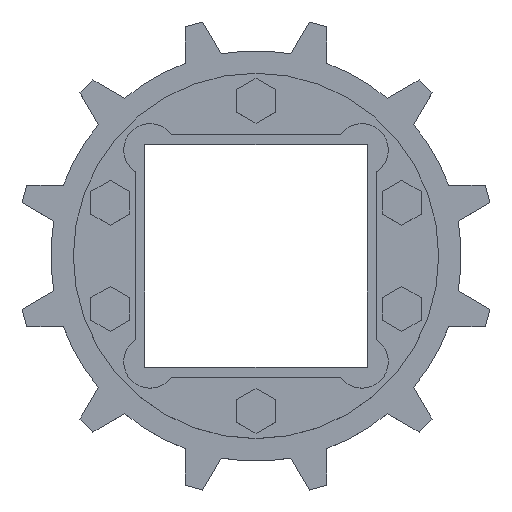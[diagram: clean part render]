
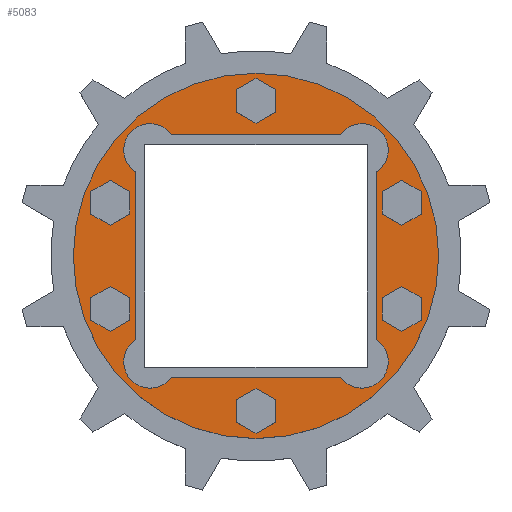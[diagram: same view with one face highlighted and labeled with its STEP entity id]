
A CAD part, top view. The second image highlights one B-rep face of the part: STEP entity #5083.
In plain terms, the highlighted planar face has unit normal (0, 0, 1) as drawn and (0, 1, 0) by its records, which use the part's own axes.
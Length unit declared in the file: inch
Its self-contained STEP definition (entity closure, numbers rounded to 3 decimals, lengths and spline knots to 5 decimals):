
#4576=CARTESIAN_POINT('',(0.,0.43,0.));
#4577=DIRECTION('',(0.,1.,0.));
#4578=DIRECTION('',(-1.,0.,0.));
#4579=AXIS2_PLACEMENT_3D('',#4576,#4577,#4578);
#4581=CARTESIAN_POINT('',(0.,0.43,0.));
#4582=DIRECTION('',(0.,-1.,0.));
#4583=DIRECTION('',(-1.,0.,0.));
#4584=AXIS2_PLACEMENT_3D('',#4581,#4582,#4583);
#4586=DIRECTION('',(0.,0.,-1.));
#4587=VECTOR('',#4586,1.89723);
#4588=CARTESIAN_POINT('',(-1.36,0.43,0.94862));
#4589=LINE('',#4588,#4587);
#4590=CARTESIAN_POINT('',(-1.189,0.43,1.189));
#4591=DIRECTION('',(0.,1.,0.));
#4592=DIRECTION('',(-0.58,0.,-0.815));
#4593=AXIS2_PLACEMENT_3D('',#4590,#4591,#4592);
#4595=DIRECTION('',(1.,0.,0.));
#4596=VECTOR('',#4595,1.88362);
#4597=CARTESIAN_POINT('',(-0.94181,0.43,1.35));
#4598=LINE('',#4597,#4596);
#4599=CARTESIAN_POINT('',(1.189,0.43,1.189));
#4600=DIRECTION('',(0.,1.,0.));
#4601=DIRECTION('',(-0.838,0.,0.546));
#4602=AXIS2_PLACEMENT_3D('',#4599,#4600,#4601);
#4604=DIRECTION('',(0.,0.,1.));
#4605=VECTOR('',#4604,1.89723);
#4606=CARTESIAN_POINT('',(1.36,0.43,-0.94862));
#4607=LINE('',#4606,#4605);
#4608=CARTESIAN_POINT('',(1.189,0.43,-1.189));
#4609=DIRECTION('',(0.,1.,0.));
#4610=DIRECTION('',(0.58,0.,0.815));
#4611=AXIS2_PLACEMENT_3D('',#4608,#4609,#4610);
#4613=DIRECTION('',(1.,0.,0.));
#4614=VECTOR('',#4613,1.88362);
#4615=CARTESIAN_POINT('',(-0.94181,0.43,-1.35));
#4616=LINE('',#4615,#4614);
#4617=CARTESIAN_POINT('',(-1.189,0.43,-1.189));
#4618=DIRECTION('',(0.,1.,0.));
#4619=DIRECTION('',(0.838,0.,-0.546));
#4620=AXIS2_PLACEMENT_3D('',#4617,#4618,#4619);
#4622=CARTESIAN_POINT('',(1.74,0.43,0.));
#4623=DIRECTION('',(0.,1.,0.));
#4624=DIRECTION('',(1.,0.,0.));
#4625=AXIS2_PLACEMENT_3D('',#4622,#4623,#4624);
#4627=CARTESIAN_POINT('',(1.74,0.43,0.));
#4628=DIRECTION('',(0.,1.,0.));
#4629=DIRECTION('',(-1.,0.,0.));
#4630=AXIS2_PLACEMENT_3D('',#4627,#4628,#4629);
#4632=CARTESIAN_POINT('',(-1.74,0.43,0.));
#4633=DIRECTION('',(0.,1.,0.));
#4634=DIRECTION('',(1.,0.,0.));
#4635=AXIS2_PLACEMENT_3D('',#4632,#4633,#4634);
#4637=CARTESIAN_POINT('',(-1.74,0.43,0.));
#4638=DIRECTION('',(0.,1.,0.));
#4639=DIRECTION('',(-1.,0.,0.));
#4640=AXIS2_PLACEMENT_3D('',#4637,#4638,#4639);
#4642=CARTESIAN_POINT('',(0.595,0.43,-1.635));
#4643=DIRECTION('',(0.,1.,0.));
#4644=DIRECTION('',(-1.,0.,0.));
#4645=AXIS2_PLACEMENT_3D('',#4642,#4643,#4644);
#4647=CARTESIAN_POINT('',(0.595,0.43,-1.635));
#4648=DIRECTION('',(0.,1.,0.));
#4649=DIRECTION('',(1.,0.,0.));
#4650=AXIS2_PLACEMENT_3D('',#4647,#4648,#4649);
#4652=CARTESIAN_POINT('',(-0.595,0.43,-1.635));
#4653=DIRECTION('',(0.,1.,0.));
#4654=DIRECTION('',(-1.,0.,0.));
#4655=AXIS2_PLACEMENT_3D('',#4652,#4653,#4654);
#4657=CARTESIAN_POINT('',(-0.595,0.43,-1.635));
#4658=DIRECTION('',(0.,1.,0.));
#4659=DIRECTION('',(1.,0.,0.));
#4660=AXIS2_PLACEMENT_3D('',#4657,#4658,#4659);
#4662=CARTESIAN_POINT('',(0.595,0.43,1.635));
#4663=DIRECTION('',(0.,1.,0.));
#4664=DIRECTION('',(-1.,0.,0.));
#4665=AXIS2_PLACEMENT_3D('',#4662,#4663,#4664);
#4667=CARTESIAN_POINT('',(0.595,0.43,1.635));
#4668=DIRECTION('',(0.,1.,0.));
#4669=DIRECTION('',(1.,0.,0.));
#4670=AXIS2_PLACEMENT_3D('',#4667,#4668,#4669);
#4672=CARTESIAN_POINT('',(-0.595,0.43,1.635));
#4673=DIRECTION('',(0.,1.,0.));
#4674=DIRECTION('',(-1.,0.,0.));
#4675=AXIS2_PLACEMENT_3D('',#4672,#4673,#4674);
#4677=CARTESIAN_POINT('',(-0.595,0.43,1.635));
#4678=DIRECTION('',(0.,1.,0.));
#4679=DIRECTION('',(1.,0.,0.));
#4680=AXIS2_PLACEMENT_3D('',#4677,#4678,#4679);
#4831=CARTESIAN_POINT('',(-2.05,0.43,0.));
#4833=VERTEX_POINT('',#4831);
#4835=CARTESIAN_POINT('',(2.05,0.43,0.));
#4837=VERTEX_POINT('',#4835);
#4854=CARTESIAN_POINT('',(-1.36,0.43,0.94862));
#4855=CARTESIAN_POINT('',(-1.36,0.43,-0.94862));
#4856=VERTEX_POINT('',#4854);
#4857=VERTEX_POINT('',#4855);
#4858=CARTESIAN_POINT('',(1.36,0.43,-0.94862));
#4859=CARTESIAN_POINT('',(1.36,0.43,0.94862));
#4860=VERTEX_POINT('',#4858);
#4861=VERTEX_POINT('',#4859);
#4862=CARTESIAN_POINT('',(0.94181,0.43,-1.35));
#4863=VERTEX_POINT('',#4862);
#4864=CARTESIAN_POINT('',(-0.94181,0.43,-1.35));
#4865=VERTEX_POINT('',#4864);
#4866=CARTESIAN_POINT('',(-0.94181,0.43,1.35));
#4867=VERTEX_POINT('',#4866);
#4868=CARTESIAN_POINT('',(0.94181,0.43,1.35));
#4869=VERTEX_POINT('',#4868);
#4874=CARTESIAN_POINT('',(1.8725,0.43,0.));
#4875=CARTESIAN_POINT('',(1.6075,0.43,0.));
#4876=VERTEX_POINT('',#4874);
#4877=VERTEX_POINT('',#4875);
#4882=CARTESIAN_POINT('',(-1.6075,0.43,0.));
#4883=CARTESIAN_POINT('',(-1.8725,0.43,0.));
#4884=VERTEX_POINT('',#4882);
#4885=VERTEX_POINT('',#4883);
#4890=CARTESIAN_POINT('',(0.4675,0.43,-1.635));
#4891=CARTESIAN_POINT('',(0.7225,0.43,-1.635));
#4892=VERTEX_POINT('',#4890);
#4893=VERTEX_POINT('',#4891);
#4898=CARTESIAN_POINT('',(-0.7225,0.43,-1.635));
#4899=CARTESIAN_POINT('',(-0.4675,0.43,-1.635));
#4900=VERTEX_POINT('',#4898);
#4901=VERTEX_POINT('',#4899);
#4906=CARTESIAN_POINT('',(0.4675,0.43,1.635));
#4907=VERTEX_POINT('',#4906);
#4908=CARTESIAN_POINT('',(0.7225,0.43,1.635));
#4909=VERTEX_POINT('',#4908);
#4914=CARTESIAN_POINT('',(-0.7225,0.43,1.635));
#4915=VERTEX_POINT('',#4914);
#4916=CARTESIAN_POINT('',(-0.4675,0.43,1.635));
#4917=VERTEX_POINT('',#4916);
#5020=CARTESIAN_POINT('',(0.,0.43,0.));
#5021=DIRECTION('',(0.,-1.,0.));
#5022=DIRECTION('',(1.,0.,0.));
#5023=AXIS2_PLACEMENT_3D('',#5020,#5021,#5022);
#5024=PLANE('',#5023);
#5025=ORIENTED_EDGE('',*,*,#4999,.F.);
#5026=ORIENTED_EDGE('',*,*,#5015,.T.);
#5027=EDGE_LOOP('',(#5025,#5026));
#5028=FACE_OUTER_BOUND('',#5027,.F.);
#5030=ORIENTED_EDGE('',*,*,#5029,.F.);
#5032=ORIENTED_EDGE('',*,*,#5031,.T.);
#5034=ORIENTED_EDGE('',*,*,#5033,.T.);
#5036=ORIENTED_EDGE('',*,*,#5035,.T.);
#5038=ORIENTED_EDGE('',*,*,#5037,.F.);
#5040=ORIENTED_EDGE('',*,*,#5039,.T.);
#5042=ORIENTED_EDGE('',*,*,#5041,.F.);
#5044=ORIENTED_EDGE('',*,*,#5043,.T.);
#5045=EDGE_LOOP('',(#5030,#5032,#5034,#5036,#5038,#5040,#5042,#5044));
#5046=FACE_BOUND('',#5045,.F.);
#5048=ORIENTED_EDGE('',*,*,#5047,.T.);
#5050=ORIENTED_EDGE('',*,*,#5049,.T.);
#5051=EDGE_LOOP('',(#5048,#5050));
#5052=FACE_BOUND('',#5051,.F.);
#5054=ORIENTED_EDGE('',*,*,#5053,.T.);
#5056=ORIENTED_EDGE('',*,*,#5055,.T.);
#5057=EDGE_LOOP('',(#5054,#5056));
#5058=FACE_BOUND('',#5057,.F.);
#5060=ORIENTED_EDGE('',*,*,#5059,.T.);
#5062=ORIENTED_EDGE('',*,*,#5061,.T.);
#5063=EDGE_LOOP('',(#5060,#5062));
#5064=FACE_BOUND('',#5063,.F.);
#5066=ORIENTED_EDGE('',*,*,#5065,.T.);
#5068=ORIENTED_EDGE('',*,*,#5067,.T.);
#5069=EDGE_LOOP('',(#5066,#5068));
#5070=FACE_BOUND('',#5069,.F.);
#5072=ORIENTED_EDGE('',*,*,#5071,.T.);
#5074=ORIENTED_EDGE('',*,*,#5073,.T.);
#5075=EDGE_LOOP('',(#5072,#5074));
#5076=FACE_BOUND('',#5075,.F.);
#5078=ORIENTED_EDGE('',*,*,#5077,.T.);
#5080=ORIENTED_EDGE('',*,*,#5079,.T.);
#5081=EDGE_LOOP('',(#5078,#5080));
#5082=FACE_BOUND('',#5081,.F.);
#5083=ADVANCED_FACE('',(#5028,#5046,#5052,#5058,#5064,#5070,#5076,#5082),#5024,
.F.);
#4580=CIRCLE('',#4579,2.05);
#4585=CIRCLE('',#4584,2.05);
#4594=CIRCLE('',#4593,0.295);
#4603=CIRCLE('',#4602,0.295);
#4612=CIRCLE('',#4611,0.295);
#4621=CIRCLE('',#4620,0.295);
#4626=CIRCLE('',#4625,0.1325);
#4631=CIRCLE('',#4630,0.1325);
#4636=CIRCLE('',#4635,0.1325);
#4641=CIRCLE('',#4640,0.1325);
#4646=CIRCLE('',#4645,0.1275);
#4651=CIRCLE('',#4650,0.1275);
#4656=CIRCLE('',#4655,0.1275);
#4661=CIRCLE('',#4660,0.1275);
#4666=CIRCLE('',#4665,0.1275);
#4671=CIRCLE('',#4670,0.1275);
#4676=CIRCLE('',#4675,0.1275);
#4681=CIRCLE('',#4680,0.1275);
#4999=EDGE_CURVE('',#4833,#4837,#4580,.T.);
#5015=EDGE_CURVE('',#4833,#4837,#4585,.T.);
#5029=EDGE_CURVE('',#4856,#4857,#4589,.T.);
#5031=EDGE_CURVE('',#4856,#4867,#4594,.T.);
#5033=EDGE_CURVE('',#4867,#4869,#4598,.T.);
#5035=EDGE_CURVE('',#4869,#4861,#4603,.T.);
#5037=EDGE_CURVE('',#4860,#4861,#4607,.T.);
#5039=EDGE_CURVE('',#4860,#4863,#4612,.T.);
#5041=EDGE_CURVE('',#4865,#4863,#4616,.T.);
#5043=EDGE_CURVE('',#4865,#4857,#4621,.T.);
#5047=EDGE_CURVE('',#4876,#4877,#4626,.T.);
#5049=EDGE_CURVE('',#4877,#4876,#4631,.T.);
#5053=EDGE_CURVE('',#4884,#4885,#4636,.T.);
#5055=EDGE_CURVE('',#4885,#4884,#4641,.T.);
#5059=EDGE_CURVE('',#4892,#4893,#4646,.T.);
#5061=EDGE_CURVE('',#4893,#4892,#4651,.T.);
#5065=EDGE_CURVE('',#4900,#4901,#4656,.T.);
#5067=EDGE_CURVE('',#4901,#4900,#4661,.T.);
#5071=EDGE_CURVE('',#4907,#4909,#4666,.T.);
#5073=EDGE_CURVE('',#4909,#4907,#4671,.T.);
#5077=EDGE_CURVE('',#4915,#4917,#4676,.T.);
#5079=EDGE_CURVE('',#4917,#4915,#4681,.T.);
